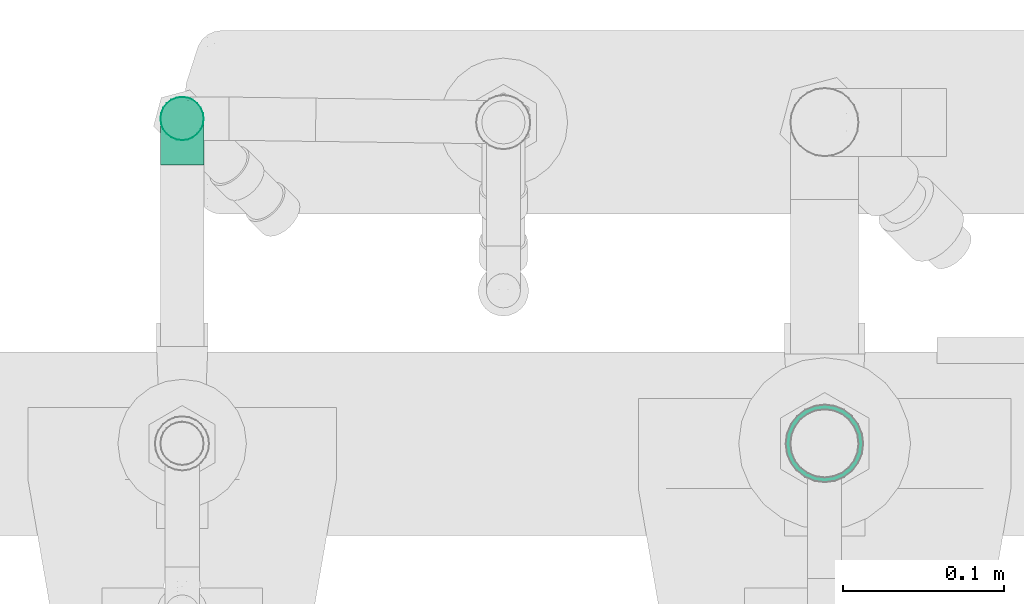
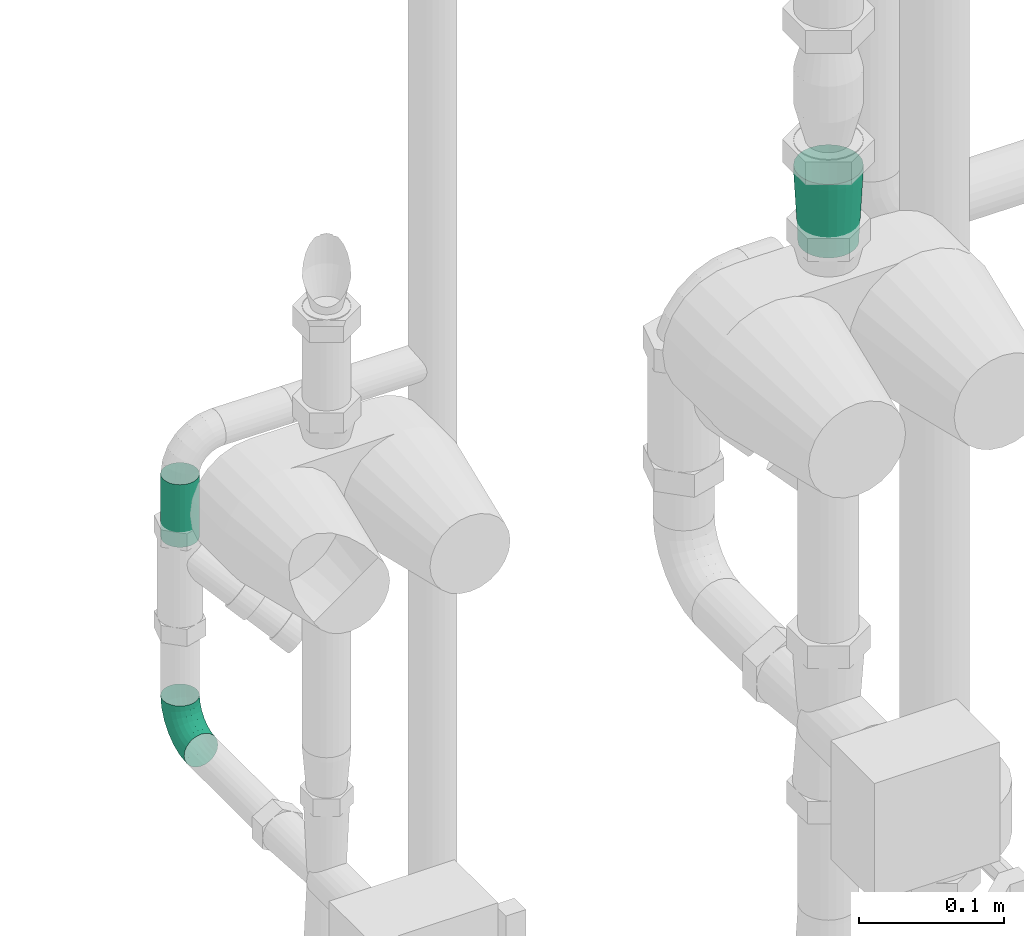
# One storey, part 341 of 374: 2 flow segments, 1 flow fitting.
"""IFC2X3 building model written with IfcOpenShell, lengths in metres."""

from ifc_helpers import new_model, si_unit, direction, origin, place, context, subcontext, project, spatial, open_shell, surface_model, source, transform, mapped, element, save


model = new_model("IFC2X3")

# Units and contexts
model_context = context("Model", 3, precision=1e-05, world=origin(), true_north=direction((-0.4480736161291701, 0.8939966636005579)))
body_context = subcontext(model_context, "Body", "Model", "MODEL_VIEW")
ifc_project = project(units=[si_unit("LENGTHUNIT", "METRE"), si_unit("AREAUNIT", "SQUARE_METRE"), si_unit("VOLUMEUNIT", "CUBIC_METRE"), si_unit("PLANEANGLEUNIT", "RADIAN"), si_unit("THERMODYNAMICTEMPERATUREUNIT", "KELVIN"), si_unit("MASSUNIT", "GRAM", prefix="KILO"), si_unit("TIMEUNIT", "SECOND")], contexts=[model_context])

# Site, building, storey
site_placement = place(None, origin())
site = spatial("IfcSite", under=ifc_project, at=site_placement, Name="Site 1", CompositionType="ELEMENT")
building_placement = place(site_placement, origin())
building = spatial("IfcBuilding", under=site, at=building_placement, Name="Undefined", CompositionType="ELEMENT")
storey_placement = place(building_placement, origin())
storey = spatial("IfcBuildingStorey", under=building, at=storey_placement, Name="Rez de chauss\x8ee", CompositionType="ELEMENT", Elevation=0.0)

# Flow segments
shared_shape_1 = source(origin(), body_context, "Body", "SurfaceModel", [
    surface_model("IfcFaceBasedSurfaceModel", [(0.011081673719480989, 0.0, 0.0), (0.011021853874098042, 0.0035106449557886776, -8.8817842e-16), (5.981984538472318e-05, 0.003510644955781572, 0.0), (0.0, 0.0, 0.0), (-0.01052869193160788, 0.003877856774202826, -0.002813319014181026), (-0.010704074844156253, 0.00037121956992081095, -0.002844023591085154), (-0.02002209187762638, 0.0045872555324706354, -0.008248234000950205), (-0.020301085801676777, 0.001088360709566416, -0.00833825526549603), (-0.027773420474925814, 0.005590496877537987, -0.01593436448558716), (-0.028137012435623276, 0.002102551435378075, -0.01610827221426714), (-0.03325443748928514, 0.006819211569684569, -0.02534791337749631), (-0.03367784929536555, 0.003344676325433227, -0.025624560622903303), (-0.03609162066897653, 0.008189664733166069, -0.03584736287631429), (-0.03654599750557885, 0.004730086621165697, -0.036238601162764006), (0.01084647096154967, 0.006899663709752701, -0.000901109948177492), (0.00023520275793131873, 0.006899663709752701, -0.000901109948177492), (-0.010014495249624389, 0.007255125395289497, -0.003624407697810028), (-0.019204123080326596, 0.007941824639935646, -0.008885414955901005), (-0.02670742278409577, 0.008912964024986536, -0.016325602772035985), (-0.032013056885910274, 0.010102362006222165, -0.02543793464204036), (-0.03475945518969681, 0.011428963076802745, -0.03560142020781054), (0.010567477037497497, 0.00993610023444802, -0.0026419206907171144), (0.0005141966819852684, 0.009936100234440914, -0.0026419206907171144), (-0.009196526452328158, 0.010272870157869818, -0.005222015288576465), (-0.01790292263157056, 0.010923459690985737, -0.010206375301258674), (-0.025011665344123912, 0.011843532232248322, -0.017255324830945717), (-0.03003830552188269, 0.012970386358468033, -0.025888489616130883), (-0.032640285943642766, 0.014227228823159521, -0.03551753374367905), (0.01020388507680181, 0.012413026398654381, -0.005103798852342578), (0.0008777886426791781, 0.012413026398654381, -0.005103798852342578), (-0.008130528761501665, 0.012725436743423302, -0.007497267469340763), (-0.01620716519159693, 0.013328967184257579, -0.012121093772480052), (-0.022801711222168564, 0.014182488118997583, -0.018660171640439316), (-0.02746475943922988, 0.015227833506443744, -0.02666887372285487), (-0.029878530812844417, 0.01639376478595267, -0.03560142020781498), (0.009780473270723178, 0.014161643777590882, -0.0081189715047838), (0.001301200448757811, 0.014161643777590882, -0.0081189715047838), (-0.006889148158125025, 0.014445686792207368, -0.01029510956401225), (-0.014232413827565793, 0.014994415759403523, -0.014499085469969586), (-0.020228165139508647, 0.01577043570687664, -0.020444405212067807), (-0.024467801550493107, 0.016720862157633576, -0.027725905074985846), (-0.026662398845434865, 0.017780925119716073, -0.035847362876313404), (0.009326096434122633, 0.015062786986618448, -0.011481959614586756), (0.0017555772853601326, 0.015062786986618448, -0.011481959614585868), (-0.005556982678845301, 0.015316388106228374, -0.013424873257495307), (-0.01211324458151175, 0.015806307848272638, -0.017178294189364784), (-0.017466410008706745, 0.016499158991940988, -0.02248643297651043), (-0.02125166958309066, 0.01734772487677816, -0.02898754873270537), (-0.023211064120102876, 0.01829417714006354, -0.03623860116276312), (0.008871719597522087, 0.015055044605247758, -0.01496358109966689), (0.0022099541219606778, 0.015055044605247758, -0.014963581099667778), (-0.004224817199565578, 0.015278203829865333, -0.01667327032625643), (-0.009994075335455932, 0.015709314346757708, -0.01997613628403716), (-0.014704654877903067, 0.01631899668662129, -0.024647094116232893), (-0.01803553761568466, 0.017065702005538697, -0.03036782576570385), (-0.019759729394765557, 0.017898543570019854, -0.036748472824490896), (0.008448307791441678, 0.014138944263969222, -0.018326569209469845), (0.0026333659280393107, 0.014138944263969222, -0.018326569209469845), (-0.002983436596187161, 0.014333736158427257, -0.019818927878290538), (-0.008019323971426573, 0.014710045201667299, -0.022701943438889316), (-0.012131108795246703, 0.015242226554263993, -0.02677914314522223), (-0.01503857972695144, 0.01589401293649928, -0.03177267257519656), (-0.016543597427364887, 0.01662098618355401, -0.03734223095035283), (0.008084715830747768, 0.012376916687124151, -0.021341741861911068), (0.002996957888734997, 0.012376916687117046, -0.021341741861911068), (-0.0019174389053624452, 0.012547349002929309, -0.022647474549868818), (-0.00632356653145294, 0.012876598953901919, -0.025169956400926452), (-0.009921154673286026, 0.013342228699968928, -0.028737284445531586), (-0.012465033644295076, 0.013912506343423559, -0.033106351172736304), (-0.013781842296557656, 0.01454856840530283, -0.03797941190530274), (0.007805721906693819, 0.009889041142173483, -0.02380362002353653), (0.00327595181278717, 0.009889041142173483, -0.02380362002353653), (-0.001099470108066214, 0.010040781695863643, -0.024966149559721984), (-0.005022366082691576, 0.010333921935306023, -0.027211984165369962), (-0.008225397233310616, 0.010748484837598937, -0.030388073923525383), (-0.010490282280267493, 0.01125621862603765, -0.034277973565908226), (-0.011662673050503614, 0.01182252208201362, -0.03861659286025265), (0.007630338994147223, 0.0068448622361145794, -0.025544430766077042), (0.003451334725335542, 0.0068448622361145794, -0.025544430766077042), (-0.0005852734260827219, 0.006984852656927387, -0.02661693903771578), (-0.004204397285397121, 0.0072552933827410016, -0.02868886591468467), (-0.007159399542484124, 0.007637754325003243, -0.03161901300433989), (-0.009248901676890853, 0.008106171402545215, -0.03520769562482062), (-0.010330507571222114, 0.008628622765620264, -0.03921035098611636), (0.0075705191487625, 0.0034518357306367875, -0.026445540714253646), (0.003511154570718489, 0.0034518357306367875, -0.026445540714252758), (-0.0004098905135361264, 0.0035878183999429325, -0.027487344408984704), (-0.003925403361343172, 0.0038505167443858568, -0.02949995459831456), (-0.006795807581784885, 0.0042220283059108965, -0.03234621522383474), (-0.008825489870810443, 0.004677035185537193, -0.03583215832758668), (-0.009876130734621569, 0.0051845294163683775, -0.03972022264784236), (0.007630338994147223, -5.880922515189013e-05, -0.026445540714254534), (0.003451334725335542, -5.880922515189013e-05, -0.026445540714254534), (-0.0005852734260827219, 8.118119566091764e-05, -0.027518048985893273), (-0.004204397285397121, 0.000351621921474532, -0.02958997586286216), (-0.00420439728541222, 0.00035162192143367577, -0.02958997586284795), (-0.007159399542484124, 0.0007340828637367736, -0.03252012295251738), (-0.009248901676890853, 0.0012024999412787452, -0.036108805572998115), (-0.010330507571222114, 0.0017249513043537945, -0.04011146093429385), (0.007805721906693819, -0.0034478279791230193, -0.02554443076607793), (0.00327595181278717, -0.0034478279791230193, -0.02554443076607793), (-0.001099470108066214, -0.0032960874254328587, -0.026706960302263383), (-0.005022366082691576, -0.003002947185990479, -0.02895279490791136), (-0.008225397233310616, -0.0025883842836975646, -0.03212888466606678), (-0.010490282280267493, -0.002080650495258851, -0.036018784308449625), (-0.011662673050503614, -0.0015143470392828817, -0.04035740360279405), (0.008084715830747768, -0.006484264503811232, -0.023803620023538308), (0.002996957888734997, -0.006484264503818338, -0.023803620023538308), (-0.0019174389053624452, -0.006313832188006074, -0.025109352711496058), (-0.00632356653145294, -0.0059845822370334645, -0.027631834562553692), (-0.009921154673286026, -0.005518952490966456, -0.031199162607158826), (-0.012465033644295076, -0.004948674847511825, -0.035568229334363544), (-0.013781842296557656, -0.0043126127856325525, -0.04044129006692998), (0.008448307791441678, -0.008961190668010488, -0.021341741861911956), (0.0026333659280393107, -0.008961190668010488, -0.021341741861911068), (-0.002983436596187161, -0.008766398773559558, -0.02283410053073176), (-0.008019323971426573, -0.008390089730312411, -0.025717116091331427), (-0.012131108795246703, -0.007857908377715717, -0.02979431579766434), (-0.01503857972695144, -0.00720612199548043, -0.03478784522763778), (-0.016543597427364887, -0.0064791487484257, -0.04035740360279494), (0.008871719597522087, -0.01070980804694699, -0.018326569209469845), (0.0022099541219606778, -0.01070980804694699, -0.018326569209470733), (-0.004224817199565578, -0.010486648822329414, -0.020036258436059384), (-0.009994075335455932, -0.01005553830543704, -0.023339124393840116), (-0.014704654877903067, -0.009445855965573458, -0.02801008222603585), (-0.01803553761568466, -0.00869915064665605, -0.033730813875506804), (-0.019759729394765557, -0.007866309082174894, -0.04011146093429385), (0.009326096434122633, -0.011610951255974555, -0.014963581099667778), (0.0017555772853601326, -0.011610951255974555, -0.014963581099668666), (-0.005556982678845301, -0.01135735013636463, -0.016906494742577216), (-0.01211324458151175, -0.010867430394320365, -0.020659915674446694), (-0.017466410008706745, -0.010174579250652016, -0.025968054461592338), (-0.02125166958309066, -0.009326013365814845, -0.03246917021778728), (-0.023211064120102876, -0.008379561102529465, -0.039720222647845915), (0.009780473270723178, -0.01160320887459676, -0.011481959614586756), (0.001301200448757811, -0.011603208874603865, -0.011481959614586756), (-0.006889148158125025, -0.011319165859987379, -0.013658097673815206), (-0.014232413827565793, -0.010770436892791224, -0.01786207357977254), (-0.020228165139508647, -0.009994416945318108, -0.023807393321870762), (-0.024467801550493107, -0.009043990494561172, -0.0310888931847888), (-0.026662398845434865, -0.007983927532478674, -0.03921035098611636), (0.01020388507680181, -0.010687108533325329, -0.008118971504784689), (0.0008777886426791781, -0.010687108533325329, -0.008118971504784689), (-0.008130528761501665, -0.010374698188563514, -0.010512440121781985), (-0.01620716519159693, -0.009771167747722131, -0.015136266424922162), (-0.022801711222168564, -0.008917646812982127, -0.021675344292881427), (-0.02746475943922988, -0.007872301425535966, -0.02968404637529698), (-0.029878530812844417, -0.006706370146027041, -0.038616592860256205), (0.010567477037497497, -0.008925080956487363, -0.0051037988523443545), (0.0005141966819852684, -0.008925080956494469, -0.0051037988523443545), (-0.009196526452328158, -0.008588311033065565, -0.007683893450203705), (-0.01790292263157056, -0.007937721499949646, -0.012668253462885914), (-0.025011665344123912, -0.007017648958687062, -0.019717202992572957), (-0.03003830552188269, -0.00589079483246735, -0.028350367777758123), (-0.032640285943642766, -0.004633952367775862, -0.03797941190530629), (0.01084647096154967, -0.0064372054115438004, -0.002641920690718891), (0.00023520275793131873, -0.0064372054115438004, -0.002641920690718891), (-0.010014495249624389, -0.006081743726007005, -0.005365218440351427), (-0.019204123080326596, -0.005395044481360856, -0.010626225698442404), (-0.02670742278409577, -0.004423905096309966, -0.018066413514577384), (-0.032013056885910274, -0.0032345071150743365, -0.02717874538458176), (-0.03475945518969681, -0.0019079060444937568, -0.03734223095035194), (0.011021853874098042, -0.003393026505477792, -0.0009011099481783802), (5.981984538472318e-05, -0.0033930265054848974, -0.000901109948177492), (-0.01052869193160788, -0.0030258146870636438, -0.003714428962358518), (-0.02002209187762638, -0.002316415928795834, -0.009149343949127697), (-0.027773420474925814, -0.0013131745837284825, -0.016835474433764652), (-0.033254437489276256, -8.445989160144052e-05, -0.026249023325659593), (-0.03609162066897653, 0.0012859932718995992, -0.036748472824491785)], [open_shell([[[0, 1, 2, 3]], [[3, 2, 4, 5]], [[5, 4, 6, 7]], [[7, 6, 8, 9]], [[9, 8, 10, 11]], [[11, 10, 12, 13]], [[1, 14, 15, 2]], [[2, 15, 16, 4]], [[4, 16, 17, 6]], [[6, 17, 18, 8]], [[8, 18, 19, 10]], [[10, 19, 20, 12]], [[14, 21, 22, 15]], [[15, 22, 23, 16]], [[16, 23, 24, 17]], [[17, 24, 25, 18]], [[18, 25, 26, 19]], [[19, 26, 27, 20]], [[21, 28, 29, 22]], [[22, 29, 30, 23]], [[23, 30, 31, 24]], [[24, 31, 32, 25]], [[25, 32, 33, 26]], [[26, 33, 34, 27]], [[28, 35, 36, 29]], [[29, 36, 37, 30]], [[30, 37, 38, 31]], [[31, 38, 39, 32]], [[32, 39, 40, 33]], [[33, 40, 41, 34]], [[35, 42, 43, 36]], [[36, 43, 44, 37]], [[37, 44, 45, 38]], [[38, 45, 46, 39]], [[39, 46, 47, 40]], [[40, 47, 48, 41]], [[42, 49, 50, 43]], [[43, 50, 51, 44]], [[44, 51, 52, 45]], [[45, 52, 53, 46]], [[46, 53, 54, 47]], [[47, 54, 55, 48]], [[49, 56, 57, 50]], [[50, 57, 58, 51]], [[51, 58, 59, 52]], [[52, 59, 60, 53]], [[53, 60, 61, 54]], [[54, 61, 62, 55]], [[56, 63, 64, 57]], [[57, 64, 65, 58]], [[58, 65, 66, 59]], [[59, 66, 67, 60]], [[60, 67, 68, 61]], [[61, 68, 69, 62]], [[63, 70, 71, 64]], [[64, 71, 72, 65]], [[65, 72, 73, 66]], [[66, 73, 74, 67]], [[67, 74, 75, 68]], [[68, 75, 76, 69]], [[70, 77, 78, 71]], [[71, 78, 79, 72]], [[72, 79, 80, 73]], [[73, 80, 81, 74]], [[74, 81, 82, 75]], [[75, 82, 83, 76]], [[77, 84, 85, 78]], [[78, 85, 86, 79]], [[79, 86, 87, 80]], [[80, 87, 88, 81]], [[81, 88, 89, 82]], [[82, 89, 90, 83]], [[84, 91, 92, 85]], [[85, 92, 93, 86]], [[86, 93, 94, 87]], [[87, 95, 96, 88]], [[88, 96, 97, 89]], [[89, 97, 98, 90]], [[91, 99, 100, 92]], [[92, 100, 101, 93]], [[93, 101, 102, 94]], [[95, 102, 103, 96]], [[96, 103, 104, 97]], [[97, 104, 105, 98]], [[99, 106, 107, 100]], [[100, 107, 108, 101]], [[101, 108, 109, 102]], [[102, 109, 110, 103]], [[103, 110, 111, 104]], [[104, 111, 112, 105]], [[106, 113, 114, 107]], [[107, 114, 115, 108]], [[108, 115, 116, 109]], [[109, 116, 117, 110]], [[110, 117, 118, 111]], [[111, 118, 119, 112]], [[113, 120, 121, 114]], [[114, 121, 122, 115]], [[115, 122, 123, 116]], [[116, 123, 124, 117]], [[117, 124, 125, 118]], [[118, 125, 126, 119]], [[120, 127, 128, 121]], [[121, 128, 129, 122]], [[122, 129, 130, 123]], [[123, 130, 131, 124]], [[124, 131, 132, 125]], [[125, 132, 133, 126]], [[127, 134, 135, 128]], [[128, 135, 136, 129]], [[129, 136, 137, 130]], [[130, 137, 138, 131]], [[131, 138, 139, 132]], [[132, 139, 140, 133]], [[134, 141, 142, 135]], [[135, 142, 143, 136]], [[136, 143, 144, 137]], [[137, 144, 145, 138]], [[138, 145, 146, 139]], [[139, 146, 147, 140]], [[141, 148, 149, 142]], [[142, 149, 150, 143]], [[143, 150, 151, 144]], [[144, 151, 152, 145]], [[145, 152, 153, 146]], [[146, 153, 154, 147]], [[148, 155, 156, 149]], [[149, 156, 157, 150]], [[150, 157, 158, 151]], [[151, 158, 159, 152]], [[152, 159, 160, 153]], [[153, 160, 161, 154]], [[155, 162, 163, 156]], [[156, 163, 164, 157]], [[157, 164, 165, 158]], [[158, 165, 166, 159]], [[159, 166, 167, 160]], [[160, 167, 168, 161]], [[162, 0, 3, 163]], [[163, 3, 5, 164]], [[164, 5, 7, 165]], [[165, 7, 9, 166]], [[166, 9, 11, 167]], [[167, 11, 13, 168]]])]),
])
flow_segment_1_placement = place(storey_placement, origin())
element("IfcFlowSegment", 1, at=flow_segment_1_placement, inside=storey, Name="Tube coudé", ObjectType="Tube coudé", context=body_context, shape_type="MappedRepresentation", body=[
    mapped(shared_shape_1, transform((52.05756201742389, 10.902312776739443, 0.764347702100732), x_axis=(0.0, -0.9914448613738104, -0.13052619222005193), y_axis=(-0.9915887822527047, -0.016893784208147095, 0.12832103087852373), z_axis=(-0.12942830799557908, 0.12942830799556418, -0.9831056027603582))),
])
shared_shape_2 = source(origin(), body_context, "Body", "SurfaceModel", [
    surface_model("IfcFaceBasedSurfaceModel", [(0.0, 0.0035111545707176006, 0.0), (0.0, 0.0, 0.0), (0.05281552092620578, 0.0, 7.105427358e-15), (0.05281552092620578, 0.003511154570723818, 7.105427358e-15), (0.0, -0.003391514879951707, -0.0009087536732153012), (0.05281552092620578, -0.0033915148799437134, -0.0009087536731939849), (0.0, -0.006432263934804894, -0.0026643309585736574), (0.05281552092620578, -0.006432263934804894, -0.0026643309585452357), (0.0, -0.00891502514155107, -0.005147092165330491), (0.05281552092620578, -0.008915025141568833, -0.005147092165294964), (0.0, -0.010670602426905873, -0.008187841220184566), (0.05281552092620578, -0.010670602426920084, -0.00818784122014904), (0.0, -0.011579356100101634, -0.01157935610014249), (0.05281552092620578, -0.01157935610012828, -0.011579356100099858), (0.0, -0.011579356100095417, -0.015090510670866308), (0.05281552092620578, -0.011579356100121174, -0.01509051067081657), (0.0, -0.010670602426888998, -0.018482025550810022), (0.05281552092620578, -0.010670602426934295, -0.018482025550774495), (0.0, -0.008915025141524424, -0.021522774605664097), (0.05281552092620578, -0.008915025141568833, -0.02152277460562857), (0.0, -0.006432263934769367, -0.02400553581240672), (0.05281552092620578, -0.00643226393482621, -0.024005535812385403), (0.0, -0.0033915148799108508, -0.025761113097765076), (0.05281552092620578, -0.0033915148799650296, -0.025761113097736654), (0.0, 4.2632564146e-14, -0.026669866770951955), (0.05281552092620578, -2.1316282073e-14, -0.026669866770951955), (0.0, 0.0035111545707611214, -0.026669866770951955), (0.05281552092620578, 0.0035111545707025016, -0.026669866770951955), (0.0, 0.006902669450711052, -0.02576111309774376), (0.05281552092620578, 0.006902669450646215, -0.025761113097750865), (0.0, 0.00994341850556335, -0.024005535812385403), (0.05281552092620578, 0.0099434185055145, -0.02400553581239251), (0.0, 0.012426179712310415, -0.02152277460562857), (0.05281552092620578, 0.01242617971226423, -0.02152277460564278), (0.0, 0.014181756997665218, -0.018482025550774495), (0.05281552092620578, 0.014181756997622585, -0.018482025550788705), (0.0, 0.015090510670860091, -0.01509051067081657), (0.05281552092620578, 0.015090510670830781, -0.015090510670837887), (0.0, 0.015090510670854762, -0.011579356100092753), (0.05281552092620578, 0.015090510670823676, -0.011579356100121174), (0.0, 0.014181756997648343, -0.00818784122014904), (0.05281552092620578, 0.014181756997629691, -0.008187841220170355), (0.0, 0.012426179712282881, -0.005147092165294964), (0.05281552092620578, 0.01242617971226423, -0.005147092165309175), (0.0, 0.009943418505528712, -0.002664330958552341), (0.05281552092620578, 0.009943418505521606, -0.0026643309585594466), (0.0, 0.006902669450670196, -0.0009087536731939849), (0.05281552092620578, 0.006902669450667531, -0.0009087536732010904)], [open_shell([[[0, 1, 2, 3]], [[1, 4, 5, 2]], [[4, 6, 7, 5]], [[6, 8, 9, 7]], [[8, 10, 11, 9]], [[10, 12, 13, 11]], [[12, 14, 15, 13]], [[14, 16, 17, 15]], [[16, 18, 19, 17]], [[18, 20, 21, 19]], [[20, 22, 23, 21]], [[22, 24, 25, 23]], [[24, 26, 27, 25]], [[26, 28, 29, 27]], [[28, 30, 31, 29]], [[30, 32, 33, 31]], [[32, 34, 35, 33]], [[34, 36, 37, 35]], [[36, 38, 39, 37]], [[38, 40, 41, 39]], [[40, 42, 43, 41]], [[42, 44, 45, 43]], [[44, 46, 47, 45]], [[46, 0, 3, 47]]])]),
])
flow_segment_2_placement = place(storey_placement, origin())
element("IfcFlowSegment", 2, at=flow_segment_2_placement, inside=storey, Name="Tube acier d'après DIN 2448", ObjectType="Tube acier d'après DIN 2448", context=body_context, shape_type="MappedRepresentation", body=[
    mapped(shared_shape_2, transform((52.06428701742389, 10.931973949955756, 0.9390567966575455), x_axis=(0.0, 0.0, 1.0), y_axis=(0.79335334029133, -0.6087614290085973, 0.0), z_axis=(0.6087614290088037, 0.7933533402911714, 0.0))),
])

# Flow fitting
shared_shape_3 = source(origin(), body_context, "Body", "SurfaceModel", [
    surface_model("IfcFaceBasedSurfaceModel", [(0.0, 0.0, 0.0), (0.005534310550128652, 0.0, 0.0), (0.005534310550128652, 0.004604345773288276, 0.0), (-8.8817842e-16, 0.004604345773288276, 7.105427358e-15), (0.010880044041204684, 0.0, -0.0014323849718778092), (0.010880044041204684, 0.004604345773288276, -0.0014323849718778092), (0.015672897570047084, 0.0, -0.004199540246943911), (0.015672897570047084, 0.004604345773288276, -0.004199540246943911), (0.01958624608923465, 0.0, -0.008112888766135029), (0.01958624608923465, 0.004604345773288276, -0.008112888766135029), (0.022353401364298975, 0.0, -0.012905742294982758), (0.022353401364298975, 0.004604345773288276, -0.012905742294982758), (0.023785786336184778, 0.0, -0.018251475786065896), (0.023785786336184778, 0.004604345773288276, -0.018251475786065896), (0.023785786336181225, 0.0, -0.02378578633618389), (0.023785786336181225, 0.004604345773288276, -0.02378578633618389), (0.022353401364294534, 0.0, -0.029131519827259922), (0.022353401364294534, 0.004604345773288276, -0.029131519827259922), (0.019586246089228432, 0.0, -0.033924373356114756), (0.019586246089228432, 0.004604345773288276, -0.033924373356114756), (0.01567289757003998, 0.0, -0.03783772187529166), (0.01567289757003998, 0.004604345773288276, -0.03783772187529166), (0.010880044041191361, 0.0, -0.040604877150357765), (0.010880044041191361, 0.004604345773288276, -0.040604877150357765), (0.005534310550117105, 0.0, -0.04203726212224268), (0.005534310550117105, 0.004604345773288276, -0.04203726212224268), (0.0, 6.4837024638e-14, -0.042037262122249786), (-1.5099033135e-14, 0.004604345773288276, -0.042037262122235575), (-0.0053457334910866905, 0.0, -0.040604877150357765), (-0.0053457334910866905, 0.004604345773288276, -0.040604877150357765), (-0.010138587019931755, 0.0, -0.03783772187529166), (-0.010138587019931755, 0.004604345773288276, -0.03783772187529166), (-0.01405193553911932, 0.0, -0.033924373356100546), (-0.01405193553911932, 0.004604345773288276, -0.033924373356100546), (-0.016819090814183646, 0.0, -0.029131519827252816), (-0.016819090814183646, 0.004604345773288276, -0.029131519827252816), (-0.01825147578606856, 0.0, -0.02378578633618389), (-0.01825147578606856, 0.004604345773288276, -0.02378578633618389), (-0.018251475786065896, 0.0, -0.018251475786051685), (-0.018251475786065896, 0.004604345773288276, -0.018251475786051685), (-0.016819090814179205, 0.0, -0.012905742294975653), (-0.016819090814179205, 0.004604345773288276, -0.012905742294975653), (-0.014051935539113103, 0.0, -0.008112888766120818), (-0.014051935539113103, 0.004604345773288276, -0.008112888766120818), (-0.010138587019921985, 0.0, -0.004199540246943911), (-0.010138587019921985, 0.004604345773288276, -0.004199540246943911), (-0.005345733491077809, 0.0, -0.0014323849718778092), (-0.005345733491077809, 0.004604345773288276, -0.0014323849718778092), (-0.021176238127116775, 0.059085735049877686, -0.01786642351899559), (-0.021176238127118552, 0.059085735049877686, -0.024170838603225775), (-0.019544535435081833, 0.059085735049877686, -0.011776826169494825), (-0.01639232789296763, 0.059085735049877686, -0.00631704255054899), (-0.011934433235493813, 0.059085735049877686, -0.0018591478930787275), (-0.006474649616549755, 0.059085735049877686, 0.00129305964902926), (-0.0003850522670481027, 0.059085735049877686, 0.002924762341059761), (0.005919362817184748, 0.059085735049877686, 0.0029247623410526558), (0.012008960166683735, 0.059085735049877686, 0.00129305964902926), (0.017468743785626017, 0.059085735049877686, -0.001859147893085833), (0.02192663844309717, 0.059085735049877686, -0.006317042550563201), (0.025078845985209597, 0.059085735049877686, -0.011776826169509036), (0.026710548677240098, 0.059085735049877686, -0.0178664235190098), (0.026710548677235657, 0.059085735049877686, -0.024170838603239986), (0.02507884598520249, 0.059085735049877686, -0.030260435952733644), (0.021926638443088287, 0.059085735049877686, -0.035720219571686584), (0.01746874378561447, 0.059085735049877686, -0.04017811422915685), (0.0120089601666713, 0.059085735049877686, -0.043330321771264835), (0.00591936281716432, 0.059085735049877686, -0.04496202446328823), (-0.0003850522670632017, 0.059085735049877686, -0.04496202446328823), (-0.006474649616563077, 0.059085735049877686, -0.043330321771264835), (-0.01193443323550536, 0.059085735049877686, -0.04017811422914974), (-0.01639232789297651, 0.059085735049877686, -0.03572021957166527), (-0.019544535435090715, 0.059085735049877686, -0.03026043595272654), (0.00591936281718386, 0.06400000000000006, 0.0029247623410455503), (-0.00038505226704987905, 0.06400000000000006, 0.002924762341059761), (0.012008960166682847, 0.06400000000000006, 0.0012930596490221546), (0.017468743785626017, 0.06400000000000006, -0.0018591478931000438), (0.021926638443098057, 0.06400000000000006, -0.0063170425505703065), (0.025078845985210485, 0.06400000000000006, -0.011776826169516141), (0.026710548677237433, 0.06400000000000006, -0.017866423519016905), (0.026710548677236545, 0.06400000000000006, -0.02417083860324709), (0.02507884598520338, 0.06400000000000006, -0.03026043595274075), (0.02192663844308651, 0.06400000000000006, -0.035720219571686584), (0.017468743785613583, 0.06400000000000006, -0.04017811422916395), (0.012008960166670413, 0.06400000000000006, -0.04333032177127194), (0.0059193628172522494, 0.06400000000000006, -0.04496202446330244), (-0.0003850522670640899, 0.06400000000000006, -0.044962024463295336), (-0.0064746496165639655, 0.06400000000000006, -0.04333032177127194), (-0.011934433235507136, 0.06400000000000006, -0.04017811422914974), (-0.016392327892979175, 0.06400000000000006, -0.035720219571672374), (-0.019544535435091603, 0.06400000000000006, -0.030260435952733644), (-0.021176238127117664, 0.06400000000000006, -0.02417083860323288), (-0.021176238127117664, 0.06400000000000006, -0.017866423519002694), (-0.019544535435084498, 0.06400000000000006, -0.01177682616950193), (-0.01639232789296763, 0.06400000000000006, -0.006317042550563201), (-0.011934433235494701, 0.06400000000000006, -0.001859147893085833), (-0.006474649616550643, 0.06400000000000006, 0.0012930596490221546)], [open_shell([[[0, 1, 2, 3]], [[1, 4, 5, 2]], [[4, 6, 7, 5]], [[6, 8, 9, 7]], [[8, 10, 11, 9]], [[10, 12, 13, 11]], [[12, 14, 15, 13]], [[14, 16, 17, 15]], [[16, 18, 19, 17]], [[18, 20, 21, 19]], [[20, 22, 23, 21]], [[22, 24, 25, 23]], [[24, 26, 27, 25]], [[26, 28, 29, 27]], [[28, 30, 31, 29]], [[30, 32, 33, 31]], [[32, 34, 35, 33]], [[34, 36, 37, 35]], [[36, 38, 39, 37]], [[38, 40, 41, 39]], [[40, 42, 43, 41]], [[42, 44, 45, 43]], [[44, 46, 47, 45]], [[46, 0, 3, 47]], [[37, 39, 48, 49]], [[39, 41, 50, 48]], [[41, 43, 51, 50]], [[43, 45, 52, 51]], [[45, 47, 53, 52]], [[47, 3, 54, 53]], [[3, 2, 55, 54]], [[2, 5, 56, 55]], [[5, 7, 57, 56]], [[7, 9, 58, 57]], [[9, 11, 59, 58]], [[11, 13, 60, 59]], [[13, 15, 61, 60]], [[15, 17, 62, 61]], [[17, 19, 63, 62]], [[19, 21, 64, 63]], [[21, 23, 65, 64]], [[23, 25, 66, 65]], [[25, 27, 67, 66]], [[27, 29, 68, 67]], [[29, 31, 69, 68]], [[31, 33, 70, 69]], [[33, 35, 71, 70]], [[35, 37, 49, 71]], [[54, 55, 72, 73]], [[55, 56, 74, 72]], [[56, 57, 75, 74]], [[57, 58, 76, 75]], [[58, 59, 77, 76]], [[59, 60, 78, 77]], [[60, 61, 79, 78]], [[61, 62, 80, 79]], [[62, 63, 81, 80]], [[63, 64, 82, 81]], [[64, 65, 83, 82]], [[65, 66, 84, 83]], [[66, 67, 85, 84]], [[67, 68, 86, 85]], [[68, 69, 87, 86]], [[69, 70, 88, 87]], [[70, 71, 89, 88]], [[71, 49, 90, 89]], [[49, 48, 91, 90]], [[48, 50, 92, 91]], [[50, 51, 93, 92]], [[51, 52, 94, 93]], [[52, 53, 95, 94]], [[53, 54, 73, 95]]])]),
])
flow_fitting_placement = place(storey_placement, origin())
element("IfcFlowFitting", 3, at=flow_fitting_placement, inside=storey, Name="Réduction", ObjectType="Réduction", context=body_context, shape_type="MappedRepresentation", body=[
    mapped(shared_shape_3, transform((52.4363620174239, 10.718037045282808, 1.1709), x_axis=(0.13052619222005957, -0.9914448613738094, 0.0), y_axis=(0.0, 0.0, 1.0), z_axis=(-0.9914448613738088, -0.13052619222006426, 0.0))),
])

save(model, "model.ifc")
